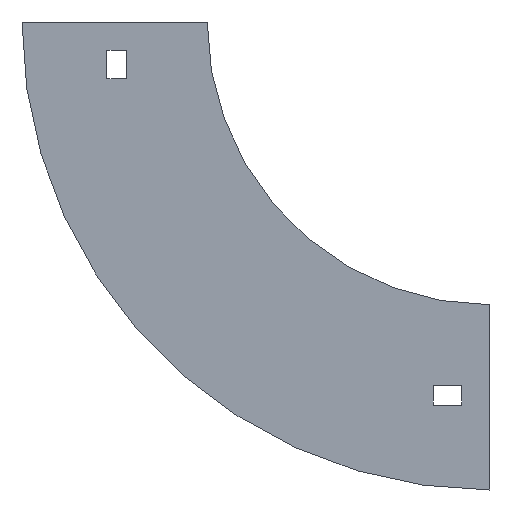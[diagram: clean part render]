
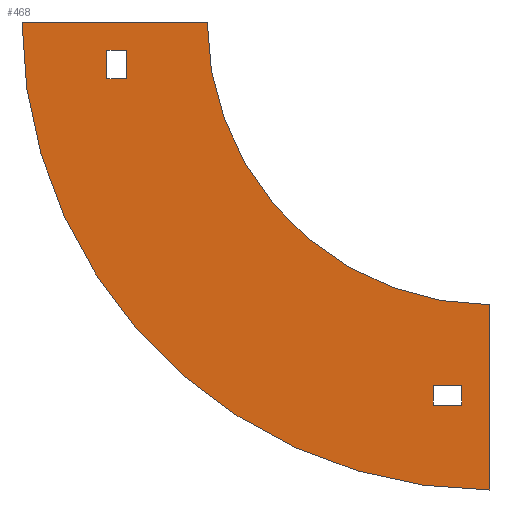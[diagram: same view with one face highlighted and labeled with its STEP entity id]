
A CAD part, left-side view. The second image highlights one B-rep face of the part: STEP entity #468.
In plain terms, the highlighted planar face has unit normal (-1, 0, 0).
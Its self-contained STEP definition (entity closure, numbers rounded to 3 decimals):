
#1 = ORIENTED_EDGE ( 'NONE', *, *, #403, .T. ) ;
#5 = AXIS2_PLACEMENT_3D ( 'NONE', #984, #452, #732 ) ;
#6 = LINE ( 'NONE', #952, #330 ) ;
#17 = LINE ( 'NONE', #279, #148 ) ;
#25 = DIRECTION ( 'NONE',  ( 0., 1., 0. ) ) ;
#31 = ORIENTED_EDGE ( 'NONE', *, *, #633, .F. ) ;
#34 = VECTOR ( 'NONE', #948, 1000. ) ;
#44 = LINE ( 'NONE', #770, #737 ) ;
#51 = VERTEX_POINT ( 'NONE', #899 ) ;
#91 = FACE_OUTER_BOUND ( 'NONE', #673, .T. ) ;
#96 = ORIENTED_EDGE ( 'NONE', *, *, #619, .F. ) ;
#98 = CARTESIAN_POINT ( 'NONE',  ( -32.75, -100., 0. ) ) ;
#134 = EDGE_CURVE ( 'NONE', #498, #828, #1121, .T. ) ;
#148 = VECTOR ( 'NONE', #898, 1000. ) ;
#167 = CIRCLE ( 'NONE', #332, 100. ) ;
#201 = ORIENTED_EDGE ( 'NONE', *, *, #975, .F. ) ;
#205 = LINE ( 'NONE', #838, #661 ) ;
#217 = VERTEX_POINT ( 'NONE', #771 ) ;
#237 = CIRCLE ( 'NONE', #1017, 165.5 ) ;
#266 = ORIENTED_EDGE ( 'NONE', *, *, #134, .T. ) ;
#274 = PLANE ( 'NONE',  #5 ) ;
#277 = LINE ( 'NONE', #613, #755 ) ;
#279 = CARTESIAN_POINT ( 'NONE',  ( -32.75, -100., -100. ) ) ;
#301 = ORIENTED_EDGE ( 'NONE', *, *, #641, .T. ) ;
#306 = ORIENTED_EDGE ( 'NONE', *, *, #494, .F. ) ;
#307 = VERTEX_POINT ( 'NONE', #348 ) ;
#313 = VERTEX_POINT ( 'NONE', #507 ) ;
#330 = VECTOR ( 'NONE', #805, 1000. ) ;
#332 = AXIS2_PLACEMENT_3D ( 'NONE', #1150, #419, #352 ) ;
#348 = CARTESIAN_POINT ( 'NONE',  ( -32.75, -80., -128.5 ) ) ;
#352 = DIRECTION ( 'NONE',  ( 0., 0., 1. ) ) ;
#366 = DIRECTION ( 'NONE',  ( 0., 0., 1. ) ) ;
#403 = EDGE_CURVE ( 'NONE', #313, #498, #969, .T. ) ;
#408 = VERTEX_POINT ( 'NONE', #623 ) ;
#414 = CARTESIAN_POINT ( 'NONE',  ( -32.75, 65.5, 0. ) ) ;
#419 = DIRECTION ( 'NONE',  ( -1., 0., 0. ) ) ;
#421 = EDGE_CURVE ( 'NONE', #509, #797, #237, .T. ) ;
#452 = DIRECTION ( 'NONE',  ( -1., 0., 0. ) ) ;
#461 = CARTESIAN_POINT ( 'NONE',  ( -32.75, -100., -165.5 ) ) ;
#463 = VECTOR ( 'NONE', #598, 1000. ) ;
#468 = ADVANCED_FACE ( 'NONE', ( #539, #91, #1079 ), #274, .T. ) ;
#486 = EDGE_CURVE ( 'NONE', #217, #313, #277, .T. ) ;
#494 = EDGE_CURVE ( 'NONE', #307, #1045, #205, .T. ) ;
#498 = VERTEX_POINT ( 'NONE', #1091 ) ;
#507 = CARTESIAN_POINT ( 'NONE',  ( -32.75, 35.5, -10. ) ) ;
#509 = VERTEX_POINT ( 'NONE', #461 ) ;
#535 = CARTESIAN_POINT ( 'NONE',  ( -32.75, 35.5, -20. ) ) ;
#539 = FACE_BOUND ( 'NONE', #917, .T. ) ;
#556 = DIRECTION ( 'NONE',  ( 0., 0., -1. ) ) ;
#573 = CARTESIAN_POINT ( 'NONE',  ( -32.75, -100., -100. ) ) ;
#588 = VECTOR ( 'NONE', #1010, 1000. ) ;
#589 = VERTEX_POINT ( 'NONE', #573 ) ;
#592 = LINE ( 'NONE', #414, #34 ) ;
#598 = DIRECTION ( 'NONE',  ( 0., 0., 1. ) ) ;
#603 = DIRECTION ( 'NONE',  ( 0., 1., 0. ) ) ;
#608 = CARTESIAN_POINT ( 'NONE',  ( -32.75, 28.5, -20. ) ) ;
#613 = CARTESIAN_POINT ( 'NONE',  ( -32.75, 35.5, -10. ) ) ;
#617 = VERTEX_POINT ( 'NONE', #655 ) ;
#619 = EDGE_CURVE ( 'NONE', #617, #408, #777, .T. ) ;
#623 = CARTESIAN_POINT ( 'NONE',  ( -32.75, -90., -128.5 ) ) ;
#627 = ORIENTED_EDGE ( 'NONE', *, *, #486, .T. ) ;
#629 = DIRECTION ( 'NONE',  ( 1., 0., 0. ) ) ;
#633 = EDGE_CURVE ( 'NONE', #797, #51, #592, .T. ) ;
#638 = EDGE_CURVE ( 'NONE', #1045, #617, #6, .T. ) ;
#641 = EDGE_CURVE ( 'NONE', #828, #217, #894, .T. ) ;
#655 = CARTESIAN_POINT ( 'NONE',  ( -32.75, -90., -135.5 ) ) ;
#661 = VECTOR ( 'NONE', #556, 1000. ) ;
#673 = EDGE_LOOP ( 'NONE', ( #804, #31, #794, #201 ) ) ;
#693 = CARTESIAN_POINT ( 'NONE',  ( -32.75, 65.5, 0. ) ) ;
#699 = CARTESIAN_POINT ( 'NONE',  ( -32.75, 35.5, -10. ) ) ;
#717 = EDGE_CURVE ( 'NONE', #51, #589, #167, .T. ) ;
#732 = DIRECTION ( 'NONE',  ( 0., 0., 1. ) ) ;
#737 = VECTOR ( 'NONE', #25, 1000. ) ;
#755 = VECTOR ( 'NONE', #961, 1000. ) ;
#770 = CARTESIAN_POINT ( 'NONE',  ( -32.75, -90., -128.5 ) ) ;
#771 = CARTESIAN_POINT ( 'NONE',  ( -32.75, 35.5, -20. ) ) ;
#774 = VECTOR ( 'NONE', #1052, 1000. ) ;
#777 = LINE ( 'NONE', #1119, #463 ) ;
#781 = EDGE_CURVE ( 'NONE', #408, #307, #44, .T. ) ;
#794 = ORIENTED_EDGE ( 'NONE', *, *, #421, .F. ) ;
#797 = VERTEX_POINT ( 'NONE', #693 ) ;
#804 = ORIENTED_EDGE ( 'NONE', *, *, #717, .F. ) ;
#805 = DIRECTION ( 'NONE',  ( 0., -1., 0. ) ) ;
#828 = VERTEX_POINT ( 'NONE', #608 ) ;
#838 = CARTESIAN_POINT ( 'NONE',  ( -32.75, -80., -135.5 ) ) ;
#841 = ORIENTED_EDGE ( 'NONE', *, *, #781, .F. ) ;
#881 = ORIENTED_EDGE ( 'NONE', *, *, #638, .F. ) ;
#894 = LINE ( 'NONE', #535, #986 ) ;
#898 = DIRECTION ( 'NONE',  ( 0., 0., -1. ) ) ;
#899 = CARTESIAN_POINT ( 'NONE',  ( -32.75, 0., 0. ) ) ;
#917 = EDGE_LOOP ( 'NONE', ( #1, #266, #301, #627 ) ) ;
#948 = DIRECTION ( 'NONE',  ( 0., -1., 0. ) ) ;
#952 = CARTESIAN_POINT ( 'NONE',  ( -32.75, -90., -135.5 ) ) ;
#961 = DIRECTION ( 'NONE',  ( 0., 0., 1. ) ) ;
#969 = LINE ( 'NONE', #699, #774 ) ;
#972 = CARTESIAN_POINT ( 'NONE',  ( -32.75, -80., -135.5 ) ) ;
#975 = EDGE_CURVE ( 'NONE', #589, #509, #17, .T. ) ;
#984 = CARTESIAN_POINT ( 'NONE',  ( -32.75, -100., 0. ) ) ;
#986 = VECTOR ( 'NONE', #603, 1000. ) ;
#1010 = DIRECTION ( 'NONE',  ( 0., 0., -1. ) ) ;
#1017 = AXIS2_PLACEMENT_3D ( 'NONE', #98, #629, #366 ) ;
#1021 = CARTESIAN_POINT ( 'NONE',  ( -32.75, 28.5, -10. ) ) ;
#1026 = EDGE_LOOP ( 'NONE', ( #841, #96, #881, #306 ) ) ;
#1045 = VERTEX_POINT ( 'NONE', #972 ) ;
#1052 = DIRECTION ( 'NONE',  ( 0., -1., 0. ) ) ;
#1079 = FACE_BOUND ( 'NONE', #1026, .T. ) ;
#1091 = CARTESIAN_POINT ( 'NONE',  ( -32.75, 28.5, -10. ) ) ;
#1119 = CARTESIAN_POINT ( 'NONE',  ( -32.75, -90., -135.5 ) ) ;
#1121 = LINE ( 'NONE', #1021, #588 ) ;
#1150 = CARTESIAN_POINT ( 'NONE',  ( -32.75, -100., 0. ) ) ;
